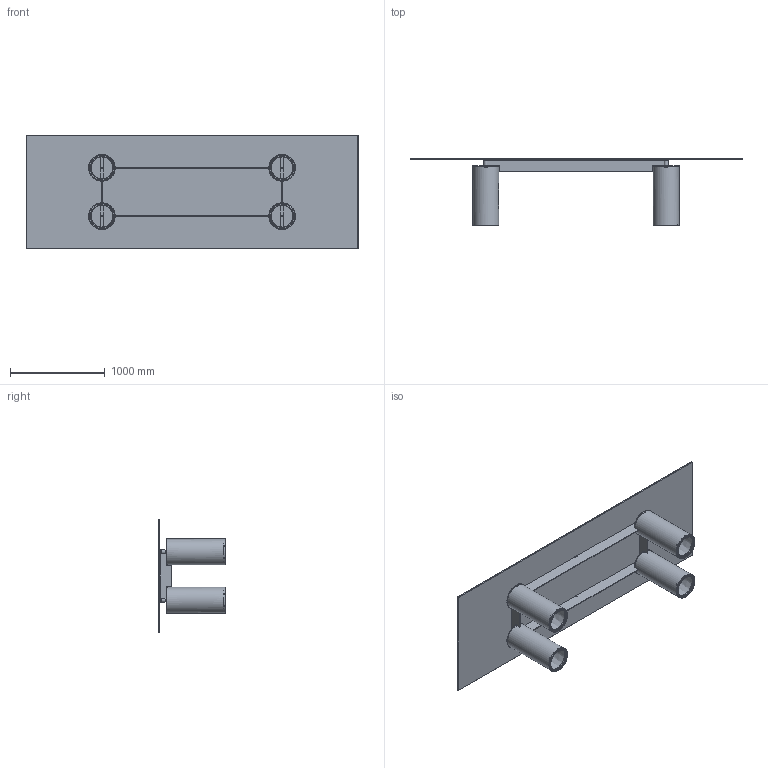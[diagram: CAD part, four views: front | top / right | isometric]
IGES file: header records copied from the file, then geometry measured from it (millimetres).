
Start section: SolidWorks IGES file using NURBS representation for surfaces
Global section: file name: \\fs\Gruppi\Tecnico\UFFICIO TECNICO\PROGETTI in SVILUPPO\2021\SERENISSIMO\3D\SERENISSIMO - 350X120.IGS; native system: SolidWorks 2019; preprocessor: SolidWorks 2019; author: prell; date: 210715.113910; units: millimetre
Bounding box: 3500 x 714 x 1200 mm (x, y, z)
Surface area: 14896888.9 mm2 (no closed solid volume)
Topology: 0 solids, 0 shells, 2003 faces, 11016 edges, 10920 vertices
Faces by surface type: bspline 2003
